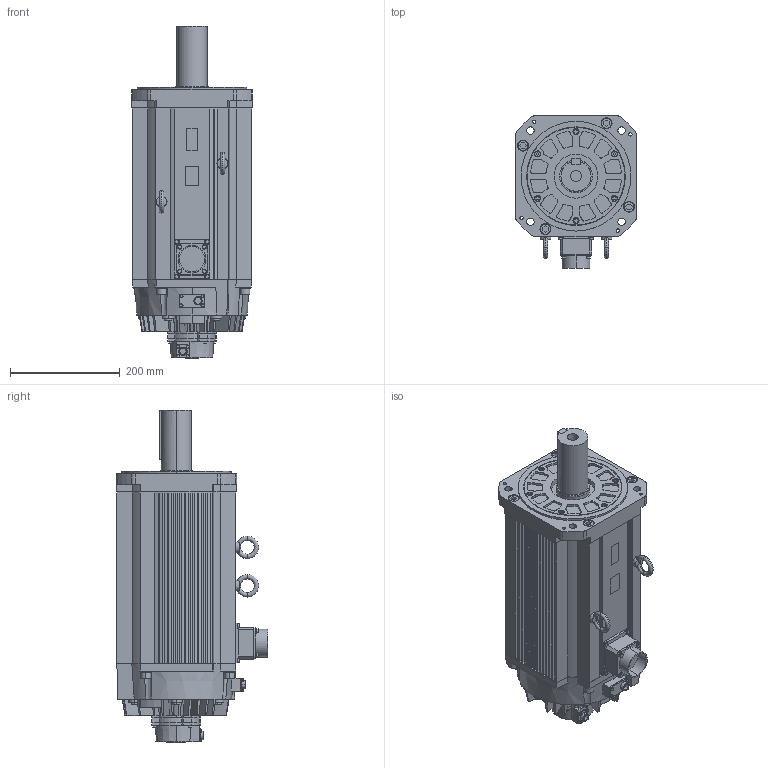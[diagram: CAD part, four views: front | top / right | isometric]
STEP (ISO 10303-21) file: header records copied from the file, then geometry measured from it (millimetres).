
FILE_DESCRIPTION (( 'STEP AP203' ), '1' );
FILE_NAME ('sgm7g_1ea6a6c.STEP', '2016-11-12T04:52:41', ( '匠エンジニアリング山之内' ), ( 'TAKUMI-Engniaring' ), 'SwSTEP 2.0', 'SolidWorks 2006303', '' );
FILE_SCHEMA (( 'CONFIG_CONTROL_DESIGN' ));
Length unit declared in the file: millimetre
Products named in the file (4): sgm7g_1ea6a6c_base; sgm7g_1ea6a6c_eyebolt; sgm7g_1ea6a6c; sgm7g_1ea6a6c_key
Assembly tree (4 placements, depth 2):
  sgm7g_1ea6a6c
    sgm7g_1ea6a6c_eyebolt  x2
    sgm7g_1ea6a6c_key
    sgm7g_1ea6a6c_base
Bounding box: 220 x 277.08 x 605.3 mm (x, y, z)
Volume: 17136459.5 mm3; surface area: 830735.2 mm2
Topology: 4 solids, 4 shells, 1376 faces, 3522 edges, 2303 vertices
Faces by surface type: plane 840, cylinder 462, cone 64, torus 8, bspline 2
Entity records: 42157 total; most frequent: CARTESIAN_POINT 7739, DIRECTION 7174, ORIENTED_EDGE 6990, EDGE_CURVE 3495, AXIS2_PLACEMENT_3D 2433, VECTOR 2308, LINE 2308, VERTEX_POINT 2287
